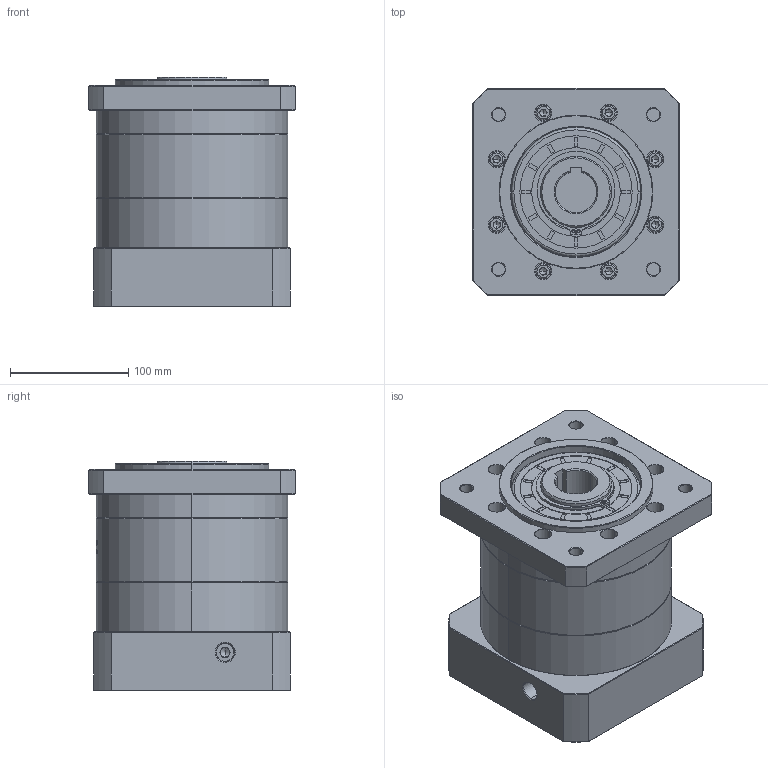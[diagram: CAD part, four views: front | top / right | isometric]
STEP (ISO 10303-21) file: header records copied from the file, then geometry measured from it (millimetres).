
FILE_DESCRIPTION (( 'STEP AP214' ), '1' );
FILE_NAME ('ZF160-K35-L1-28-130-174-M10.step', '2023-03-21T04:31:35', ( '' ), ( '' ), 'SwSTEP 2.0', 'SolidWorks 2016', '' );
FILE_SCHEMA (( 'AUTOMOTIVE_DESIGN' ));
Length unit declared in the file: millimetre
Products named in the file (1): ZF160-K35-L1-28-130-174-M10
Bounding box: 175 x 175 x 194.2 mm (x, y, z)
Volume: 3917509.8 mm3; surface area: 322567.3 mm2
Topology: 6 solids, 6 shells, 1577 faces, 4106 edges, 2632 vertices
Faces by surface type: plane 637, cylinder 389, cone 320, bspline 211, torus 20
Entity records: 86496 total; most frequent: CARTESIAN_POINT 32519, ORIENTED_EDGE 8156, DIRECTION 6948, EDGE_CURVE 4078, VERTEX_POINT 2632, AXIS2_PLACEMENT_3D 2407, VECTOR 2134, LINE 2134
